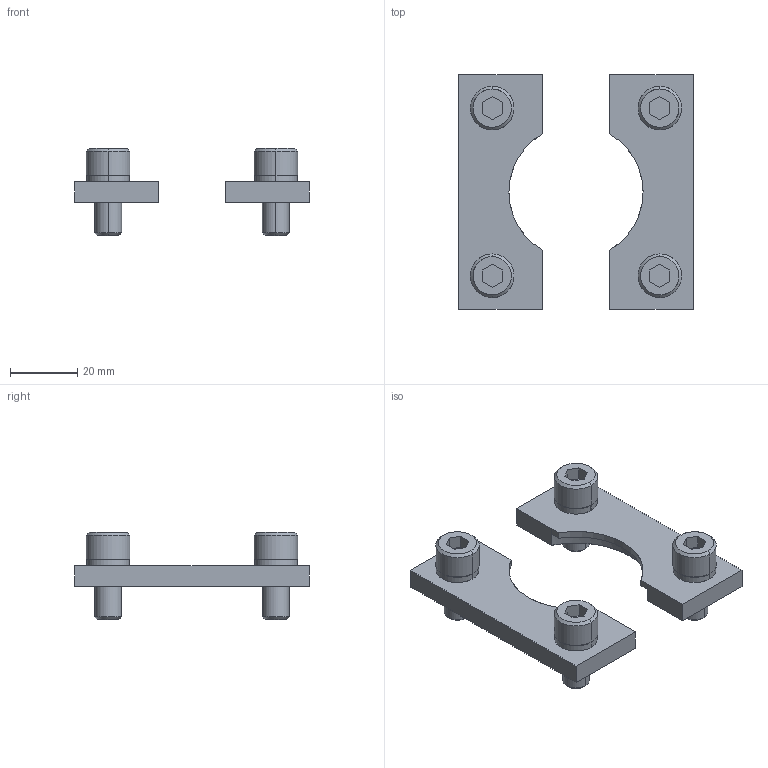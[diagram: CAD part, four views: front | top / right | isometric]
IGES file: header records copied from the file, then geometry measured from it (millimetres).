
Global section: file name: E:\UnigraphicsGraphicData\MISUMI_PRESS-PARTS\IGES\3d_sf45_05184_r00.igs; native system: NX V5.0; preprocessor: UGS NX IGES V5.0; author: MISUMI; date: 20110105.162527; units: millimetre
Bounding box: 70 x 70 x 26 mm (x, y, z)
Surface area: 14106.1 mm2 (no closed solid volume)
Topology: 0 solids, 0 shells, 136 faces, 868 edges, 868 vertices
Faces by surface type: bspline 136
